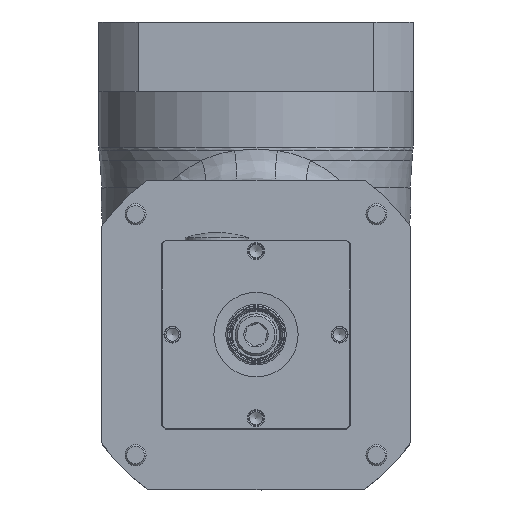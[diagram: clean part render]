
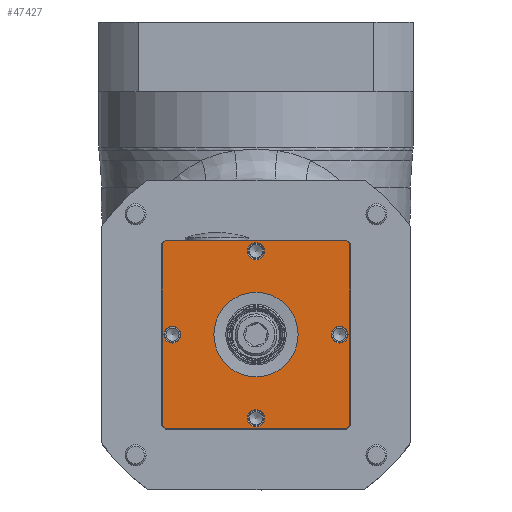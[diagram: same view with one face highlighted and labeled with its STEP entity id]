
A CAD part, top view. The second image highlights one B-rep face of the part: STEP entity #47427.
In plain terms, the highlighted planar face has unit normal (0, 0, 1).
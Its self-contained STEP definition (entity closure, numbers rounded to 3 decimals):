
#166 = EDGE_CURVE ( 'NONE', #13583, #13583, #49094, .T. ) ;
#583 = VERTEX_POINT ( 'NONE', #31887 ) ;
#2492 = LINE ( 'NONE', #9068, #63593 ) ;
#3207 = CARTESIAN_POINT ( 'NONE',  ( -28.627, 0., 45. ) ) ;
#3753 = CARTESIAN_POINT ( 'NONE',  ( 35.75, 34.699, 45. ) ) ;
#4664 = EDGE_CURVE ( 'NONE', #73927, #583, #2492, .T. ) ;
#5827 = CARTESIAN_POINT ( 'NONE',  ( 0., 0., 45. ) ) ;
#5975 = AXIS2_PLACEMENT_3D ( 'NONE', #54008, #79336, #67256 ) ;
#6109 = DIRECTION ( 'NONE',  ( 0., 0., 1. ) ) ;
#7227 = LINE ( 'NONE', #74790, #24207 ) ;
#7340 = EDGE_CURVE ( 'NONE', #76793, #9895, #7227, .T. ) ;
#7349 = EDGE_CURVE ( 'NONE', #40079, #40079, #25478, .T. ) ;
#9068 = CARTESIAN_POINT ( 'NONE',  ( -34.699, 35.75, 45. ) ) ;
#9895 = VERTEX_POINT ( 'NONE', #17234 ) ;
#10192 = FACE_BOUND ( 'NONE', #28292, .T. ) ;
#12613 = CARTESIAN_POINT ( 'NONE',  ( 0., 50., 45. ) ) ;
#13583 = VERTEX_POINT ( 'NONE', #45483 ) ;
#15600 = ORIENTED_EDGE ( 'NONE', *, *, #33592, .F. ) ;
#16176 = CARTESIAN_POINT ( 'NONE',  ( -34.598, -35.75, 45. ) ) ;
#17234 = CARTESIAN_POINT ( 'NONE',  ( -35.75, -34.598, 45. ) ) ;
#18902 = EDGE_LOOP ( 'NONE', ( #72166 ) ) ;
#19170 = CARTESIAN_POINT ( 'NONE',  ( 34.598, 35.75, 45. ) ) ;
#19881 = EDGE_CURVE ( 'NONE', #583, #76793, #67525, .T. ) ;
#20068 = DIRECTION ( 'NONE',  ( 0., 0., 1. ) ) ;
#20992 = VERTEX_POINT ( 'NONE', #66528 ) ;
#21552 = AXIS2_PLACEMENT_3D ( 'NONE', #69773, #37054, #44079 ) ;
#21910 = EDGE_LOOP ( 'NONE', ( #68459, #24089, #66899, #55750, #68959, #57823, #48528, #81482 ) ) ;
#22150 = AXIS2_PLACEMENT_3D ( 'NONE', #25510, #6109, #49981 ) ;
#22545 = AXIS2_PLACEMENT_3D ( 'NONE', #25336, #29187, #67741 ) ;
#24089 = ORIENTED_EDGE ( 'NONE', *, *, #19881, .T. ) ;
#24207 = VECTOR ( 'NONE', #69343, 1000. ) ;
#25336 = CARTESIAN_POINT ( 'NONE',  ( 0., 0., 45. ) ) ;
#25478 = CIRCLE ( 'NONE', #21552, 3.25 ) ;
#25510 = CARTESIAN_POINT ( 'NONE',  ( 0., 0., 45. ) ) ;
#27149 = AXIS2_PLACEMENT_3D ( 'NONE', #38310, #63589, #37095 ) ;
#28292 = EDGE_LOOP ( 'NONE', ( #42426 ) ) ;
#28636 = VERTEX_POINT ( 'NONE', #47708 ) ;
#29071 = CARTESIAN_POINT ( 'NONE',  ( 35.75, 34.598, 45. ) ) ;
#29187 = DIRECTION ( 'NONE',  ( 0., 0., 1. ) ) ;
#29598 = FACE_OUTER_BOUND ( 'NONE', #21910, .T. ) ;
#31014 = DIRECTION ( 'NONE',  ( 0., 0., 1. ) ) ;
#31451 = VECTOR ( 'NONE', #59269, 1000. ) ;
#31823 = DIRECTION ( 'NONE',  ( 0., 0., 1. ) ) ;
#31887 = CARTESIAN_POINT ( 'NONE',  ( -34.598, 35.75, 45. ) ) ;
#32998 = VECTOR ( 'NONE', #56464, 1000. ) ;
#33236 = CARTESIAN_POINT ( 'NONE',  ( -35.75, 34.598, 45. ) ) ;
#33592 = EDGE_CURVE ( 'NONE', #28636, #28636, #37440, .T. ) ;
#35194 = LINE ( 'NONE', #3753, #31451 ) ;
#35903 = AXIS2_PLACEMENT_3D ( 'NONE', #57281, #71353, #76373 ) ;
#37054 = DIRECTION ( 'NONE',  ( 0., 0., 1. ) ) ;
#37095 = DIRECTION ( 'NONE',  ( 1., 0., 0. ) ) ;
#37440 = CIRCLE ( 'NONE', #73192, 3.25 ) ;
#37644 = CARTESIAN_POINT ( 'NONE',  ( 35.75, -34.598, 45. ) ) ;
#38310 = CARTESIAN_POINT ( 'NONE',  ( -31.877, 0., 45. ) ) ;
#40079 = VERTEX_POINT ( 'NONE', #59563 ) ;
#42426 = ORIENTED_EDGE ( 'NONE', *, *, #7349, .F. ) ;
#43137 = EDGE_CURVE ( 'NONE', #70271, #73927, #67070, .T. ) ;
#43479 = CARTESIAN_POINT ( 'NONE',  ( 0., 31.877, 45. ) ) ;
#43521 = VERTEX_POINT ( 'NONE', #16176 ) ;
#44079 = DIRECTION ( 'NONE',  ( 1., 0., 0. ) ) ;
#45483 = CARTESIAN_POINT ( 'NONE',  ( -16.094, 0., 45. ) ) ;
#47427 = ADVANCED_FACE ( 'NONE', ( #29598, #74397, #55723, #54885, #10192, #68151 ), #79404, .T. ) ;
#47577 = DIRECTION ( 'NONE',  ( -1., 0., 0. ) ) ;
#47708 = CARTESIAN_POINT ( 'NONE',  ( 3.25, 31.877, 45. ) ) ;
#48428 = EDGE_CURVE ( 'NONE', #9895, #43521, #71452, .T. ) ;
#48528 = ORIENTED_EDGE ( 'NONE', *, *, #74405, .T. ) ;
#49094 = CIRCLE ( 'NONE', #35903, 16.094 ) ;
#49981 = DIRECTION ( 'NONE',  ( 1., 0., 0. ) ) ;
#50133 = AXIS2_PLACEMENT_3D ( 'NONE', #12613, #20068, #62751 ) ;
#53410 = DIRECTION ( 'NONE',  ( 1., 0., 0. ) ) ;
#54008 = CARTESIAN_POINT ( 'NONE',  ( 0., -31.877, 45. ) ) ;
#54885 = FACE_BOUND ( 'NONE', #56634, .T. ) ;
#55401 = EDGE_CURVE ( 'NONE', #20992, #20992, #69432, .T. ) ;
#55723 = FACE_BOUND ( 'NONE', #64508, .T. ) ;
#55750 = ORIENTED_EDGE ( 'NONE', *, *, #48428, .T. ) ;
#56400 = EDGE_CURVE ( 'NONE', #59934, #59934, #62893, .T. ) ;
#56464 = DIRECTION ( 'NONE',  ( 1., 0., 0. ) ) ;
#56515 = EDGE_LOOP ( 'NONE', ( #15600 ) ) ;
#56634 = EDGE_LOOP ( 'NONE', ( #63738 ) ) ;
#56713 = DIRECTION ( 'NONE',  ( 1., 0., 0. ) ) ;
#57281 = CARTESIAN_POINT ( 'NONE',  ( 0., 0., 45. ) ) ;
#57606 = ORIENTED_EDGE ( 'NONE', *, *, #56400, .F. ) ;
#57823 = ORIENTED_EDGE ( 'NONE', *, *, #71342, .T. ) ;
#59269 = DIRECTION ( 'NONE',  ( 0., 1., 0. ) ) ;
#59563 = CARTESIAN_POINT ( 'NONE',  ( 35.127, 0., 45. ) ) ;
#59934 = VERTEX_POINT ( 'NONE', #3207 ) ;
#62751 = DIRECTION ( 'NONE',  ( 1., 0., 0. ) ) ;
#62893 = CIRCLE ( 'NONE', #27149, 3.25 ) ;
#63589 = DIRECTION ( 'NONE',  ( 0., 0., 1. ) ) ;
#63593 = VECTOR ( 'NONE', #47577, 1000. ) ;
#63738 = ORIENTED_EDGE ( 'NONE', *, *, #55401, .F. ) ;
#63780 = VERTEX_POINT ( 'NONE', #37644 ) ;
#64508 = EDGE_LOOP ( 'NONE', ( #57606 ) ) ;
#64872 = AXIS2_PLACEMENT_3D ( 'NONE', #5827, #31014, #56713 ) ;
#66528 = CARTESIAN_POINT ( 'NONE',  ( 3.25, -31.877, 45. ) ) ;
#66899 = ORIENTED_EDGE ( 'NONE', *, *, #7340, .T. ) ;
#67070 = CIRCLE ( 'NONE', #22150, 49.75 ) ;
#67256 = DIRECTION ( 'NONE',  ( 1., 0., 0. ) ) ;
#67525 = CIRCLE ( 'NONE', #22545, 49.75 ) ;
#67677 = LINE ( 'NONE', #68491, #32998 ) ;
#67741 = DIRECTION ( 'NONE',  ( 1., 0., 0. ) ) ;
#68151 = FACE_BOUND ( 'NONE', #18902, .T. ) ;
#68459 = ORIENTED_EDGE ( 'NONE', *, *, #4664, .T. ) ;
#68491 = CARTESIAN_POINT ( 'NONE',  ( 34.699, -35.75, 45. ) ) ;
#68729 = DIRECTION ( 'NONE',  ( 1., 0., 0. ) ) ;
#68959 = ORIENTED_EDGE ( 'NONE', *, *, #76732, .T. ) ;
#69343 = DIRECTION ( 'NONE',  ( 0., -1., 0. ) ) ;
#69432 = CIRCLE ( 'NONE', #5975, 3.25 ) ;
#69773 = CARTESIAN_POINT ( 'NONE',  ( 31.877, 0., 45. ) ) ;
#70271 = VERTEX_POINT ( 'NONE', #29071 ) ;
#70684 = CIRCLE ( 'NONE', #81354, 49.75 ) ;
#71342 = EDGE_CURVE ( 'NONE', #80261, #63780, #70684, .T. ) ;
#71353 = DIRECTION ( 'NONE',  ( 0., 0., -1. ) ) ;
#71452 = CIRCLE ( 'NONE', #64872, 49.75 ) ;
#72166 = ORIENTED_EDGE ( 'NONE', *, *, #166, .T. ) ;
#72910 = DIRECTION ( 'NONE',  ( 0., 0., 1. ) ) ;
#73192 = AXIS2_PLACEMENT_3D ( 'NONE', #43479, #31823, #68729 ) ;
#73927 = VERTEX_POINT ( 'NONE', #19170 ) ;
#74397 = FACE_BOUND ( 'NONE', #56515, .T. ) ;
#74405 = EDGE_CURVE ( 'NONE', #63780, #70271, #35194, .T. ) ;
#74790 = CARTESIAN_POINT ( 'NONE',  ( -35.75, -34.699, 45. ) ) ;
#76088 = CARTESIAN_POINT ( 'NONE',  ( 34.598, -35.75, 45. ) ) ;
#76373 = DIRECTION ( 'NONE',  ( -1., 0., 0. ) ) ;
#76732 = EDGE_CURVE ( 'NONE', #43521, #80261, #67677, .T. ) ;
#76793 = VERTEX_POINT ( 'NONE', #33236 ) ;
#78317 = CARTESIAN_POINT ( 'NONE',  ( 0., 0., 45. ) ) ;
#79336 = DIRECTION ( 'NONE',  ( 0., 0., 1. ) ) ;
#79404 = PLANE ( 'NONE',  #50133 ) ;
#80261 = VERTEX_POINT ( 'NONE', #76088 ) ;
#81354 = AXIS2_PLACEMENT_3D ( 'NONE', #78317, #72910, #53410 ) ;
#81482 = ORIENTED_EDGE ( 'NONE', *, *, #43137, .T. ) ;
